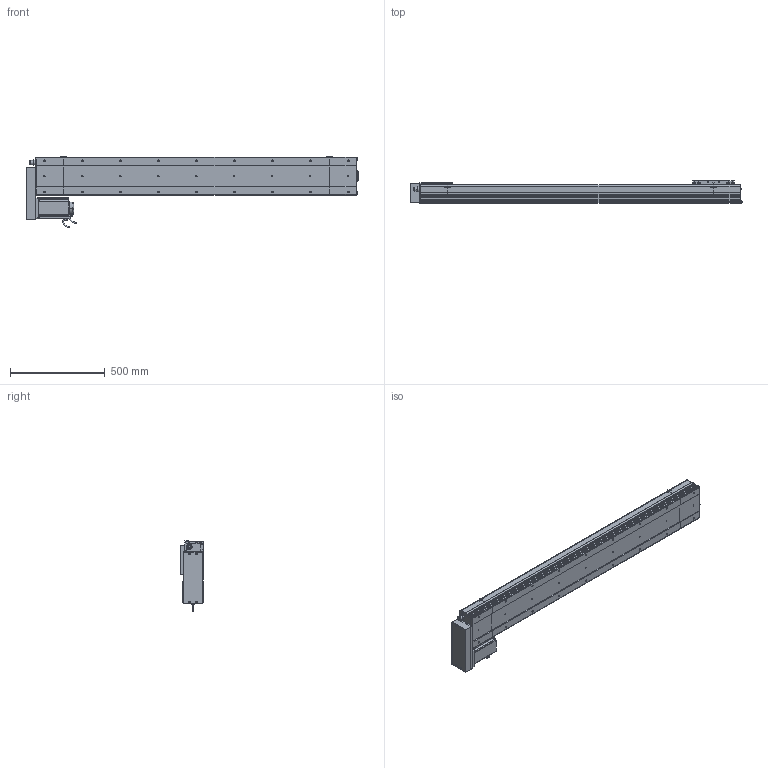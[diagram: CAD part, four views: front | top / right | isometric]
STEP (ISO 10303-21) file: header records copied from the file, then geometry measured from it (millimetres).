
FILE_DESCRIPTION (( 'STEP AP214' ), '1' );
FILE_NAME ('D20 CSH BR S1400.STEP', '2010-06-30T08:24:53', ( 'Conseil Régional Haute-Normandie' ), ( 'Conseil Régional Haute-Normandie' ), 'SwSTEP 2.0', 'SolidWorks 2010', '' );
FILE_SCHEMA (( 'AUTOMOTIVE_DESIGN' ));
Length unit declared in the file: millimetre
Products named in the file (31): D20 CSH BR S1400; Couvercle_Default; Corp Tail D20_Default; Tail D20_Default; Corp D20 S1400_Default; Plaque De Serrage D20_Default; Plaque de Bout Tail D20_Default; ecrou_Default; Cache Moteur BR D20_Default; vis M5 L15_Default; vis M5 L47_Default; vis M5 L30_Default; Corp S1400_Default; Conecteur_Default; Conecteur2_Default; clavette; codeur 110BLDC170A-630x; corps 110BLDC170A-630x; Chariot D20_Default; Couvercle S1400_Default; avant 110BLDC170A-630x; Support Chariot D20_Default; Couvercle Head BR_Default; Glissiere_Default; Moteur motionking 110BLDC170A-640x; Plaque De Serrage Head BR D20_Default; Head D20 BR_Default; Corp Head BR D20_Default; Support moteur BR D20_Default; Plaque de Bout Head BR D20_Default
Assembly tree (60 placements, depth 4):
  D20 CSH BR S1400
    Chariot D20_Default
      Chariot D20_Default
      vis M5 L15_Default  x8
      Support Chariot D20_Default
      Glissiere_Default
    Head D20 BR_Default
      Plaque De Serrage Head BR D20_Default
      vis M5 L15_Default  x8
      vis M5 L30_Default  x4
      Couvercle Head BR_Default
      Cache Moteur BR D20_Default
      vis M5 L47_Default  x4
      ecrou_Default  x4
      Support moteur BR D20_Default
      Moteur motionking 110BLDC170A-640x
        clavette
        corps 110BLDC170A-630x
        Conecteur_Default
        avant 110BLDC170A-630x
        codeur 110BLDC170A-630x
        Conecteur2_Default
      Plaque de Bout Head BR D20_Default
      Corp Head BR D20_Default
    Corp D20 S1400_Default
      Corp S1400_Default
      Couvercle S1400_Default
    Tail D20_Default
      vis M5 L15_Default  x6
      Plaque De Serrage D20_Default
      Plaque de Bout Tail D20_Default
      Couvercle_Default
      Corp Tail D20_Default
Bounding box: 1747.7 x 120 x 372 mm (x, y, z)
Volume: 13703976.5 mm3; surface area: 2588109.8 mm2
Topology: 97 solids, 97 shells, 3583 faces, 8987 edges, 5853 vertices
Faces by surface type: plane 2012, bspline 806, cylinder 619, torus 83, cone 63
Entity records: 157241 total; most frequent: CARTESIAN_POINT 81927, ORIENTED_EDGE 14922, DIRECTION 11199, EDGE_CURVE 7461, VERTEX_POINT 4941, VECTOR 4877, LINE 4877, EDGE_LOOP 3192
